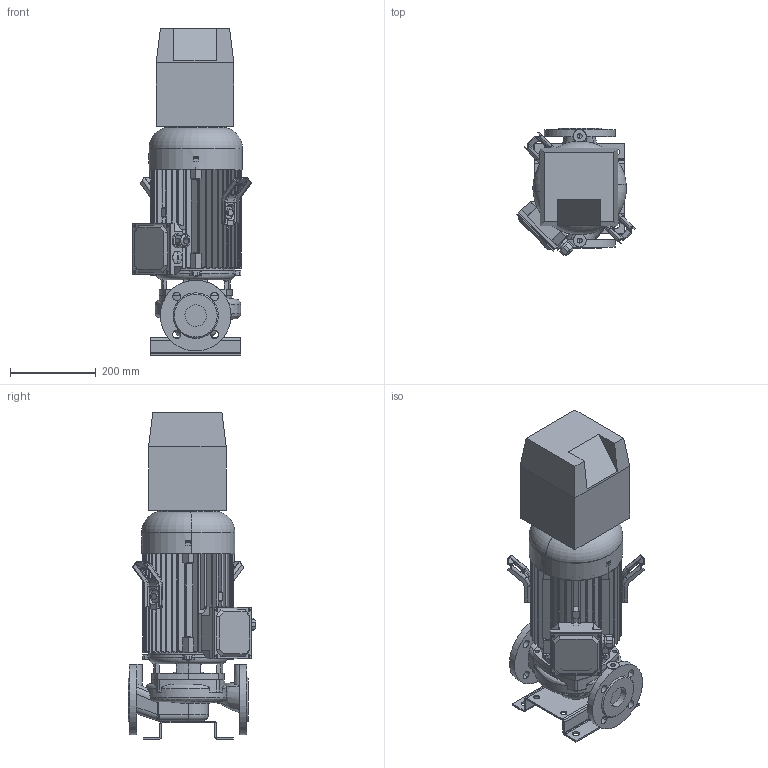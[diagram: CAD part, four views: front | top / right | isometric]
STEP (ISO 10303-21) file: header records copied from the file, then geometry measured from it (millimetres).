
FILE_DESCRIPTION(('STEP AP214'),'1');
FILE_NAME('export.stp','2018-08-08T13:14:18',(' '),(' '),'Spatial InterOp 3D',' ',' ');
FILE_SCHEMA(('AUTOMOTIVE_DESIGN { 1 0 10303 214 1 1 1 1 }'));
Length unit declared in the file: millimetre
Products named in the file (18): W_L50C2NC400KP; V_TLL50ABC; V_PPL50ABC; V_JALKA35973; 440017; 440016; V_MKP-112-1_F16; 440014___; 440018; 440021; 480022; 480020; 480019; 480023; DIN_EN_24017_-_M10_20_DIN_EN_240; M25_Blind_Plug; M25_tiivisteholkk; NC_Size1
Assembly tree (19 placements, depth 4):
  W_L50C2NC400KP
    V_TLL50ABC
    V_PPL50ABC
    V_JALKA35973
    V_MKP-112-1_F16
      440017
        440016
      440014___
      440018
      440021
      480022
      480020
      480019  x2
      480023
      DIN_EN_24017_-_M10_20_DIN_EN_240  x2
      M25_Blind_Plug
      M25_tiivisteholkk
    NC_Size1
Bounding box: 276.21 x 297.65 x 762.2 mm (x, y, z)
Volume: 12003752.8 mm3; surface area: 1657291.6 mm2
Topology: 17 solids, 17 shells, 1871 faces, 5207 edges, 3401 vertices
Faces by surface type: cylinder 921, plane 640, cone 146, torus 126, bspline 30, sphere 8
Entity records: 70079 total; most frequent: CARTESIAN_POINT 20623, ORIENTED_EDGE 9852, DIRECTION 9560, EDGE_CURVE 4926, AXIS2_PLACEMENT_3D 3656, VERTEX_POINT 3231, LINE 2248, VECTOR 2248
